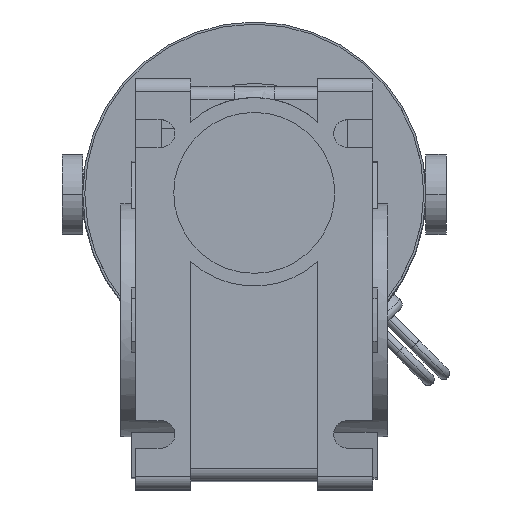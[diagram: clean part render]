
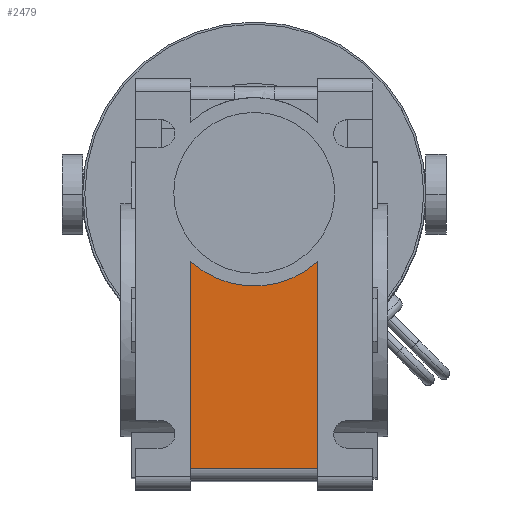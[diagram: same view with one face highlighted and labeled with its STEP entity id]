
A CAD part, top view. The second image highlights one B-rep face of the part: STEP entity #2479.
In plain terms, the highlighted planar face has unit normal (0, 0, 1).
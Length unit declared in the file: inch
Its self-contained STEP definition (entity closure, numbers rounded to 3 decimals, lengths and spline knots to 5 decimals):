
#2472 = VERTEX_POINT ( 'NONE', #9418 ) ;
#2476 = VERTEX_POINT ( 'NONE', #9412 ) ;
#2478 = EDGE_CURVE ( 'NONE', #2472, #2476, #9411, .T. ) ;
#2479 = ADVANCED_FACE ( 'NONE', ( #9407 ), #9406, .F. ) ;
#2480 = EDGE_LOOP ( 'NONE', ( #2481, #2538, #2539, #2543 ) ) ;
#2481 = ORIENTED_EDGE ( 'NONE', *, *, #2482, .T. ) ;
#2482 = EDGE_CURVE ( 'NONE', #2483, #2472, #9401, .T. ) ;
#2483 = VERTEX_POINT ( 'NONE', #9396 ) ;
#2538 = ORIENTED_EDGE ( 'NONE', *, *, #2478, .T. ) ;
#2539 = ORIENTED_EDGE ( 'NONE', *, *, #2540, .T. ) ;
#2540 = EDGE_CURVE ( 'NONE', #2476, #2541, #9495, .T. ) ;
#2541 = VERTEX_POINT ( 'NONE', #9491 ) ;
#2543 = ORIENTED_EDGE ( 'NONE', *, *, #2544, .T. ) ;
#2544 = EDGE_CURVE ( 'NONE', #2541, #2483, #9490, .T. ) ;
#9396 = CARTESIAN_POINT ( 'NONE',  ( -0.59055, -0.63715, 3.94142 ) ) ;
#9397 = DIRECTION ( 'NONE',  ( 0., -1., 0. ) ) ;
#9398 = VECTOR ( 'NONE', #9397, 39.37008 ) ;
#9400 = CARTESIAN_POINT ( 'NONE',  ( -0.59055, -2.67717, 3.94142 ) ) ;
#9401 = LINE ( 'NONE', #9400, #9398 ) ;
#9402 = DIRECTION ( 'NONE',  ( 0., -1., 0. ) ) ;
#9403 = DIRECTION ( 'NONE',  ( 0., 0., -1. ) ) ;
#9404 = AXIS2_PLACEMENT_3D ( 'NONE', #9405, #9403, #9402 ) ;
#9405 = CARTESIAN_POINT ( 'NONE',  ( 0., 0.00984, 3.94142 ) ) ;
#9406 = PLANE ( 'NONE',  #9404 ) ;
#9407 = FACE_OUTER_BOUND ( 'NONE', #2480, .T. ) ;
#9408 = DIRECTION ( 'NONE',  ( 1., 0., 0. ) ) ;
#9409 = VECTOR ( 'NONE', #9408, 39.37008 ) ;
#9410 = CARTESIAN_POINT ( 'NONE',  ( 0., -2.55906, 3.94142 ) ) ;
#9411 = LINE ( 'NONE', #9410, #9409 ) ;
#9412 = CARTESIAN_POINT ( 'NONE',  ( 0.59055, -2.55906, 3.94142 ) ) ;
#9418 = CARTESIAN_POINT ( 'NONE',  ( -0.59055, -2.55906, 3.94142 ) ) ;
#9486 = DIRECTION ( 'NONE',  ( 1., 0., 0. ) ) ;
#9487 = DIRECTION ( 'NONE',  ( 0., 0., -1. ) ) ;
#9488 = CARTESIAN_POINT ( 'NONE',  ( 0., 0.00984, 3.94142 ) ) ;
#9489 = AXIS2_PLACEMENT_3D ( 'NONE', #9488, #9487, #9486 ) ;
#9490 = CIRCLE ( 'NONE', #9489, 0.87598 ) ;
#9491 = CARTESIAN_POINT ( 'NONE',  ( 0.59055, -0.63715, 3.94142 ) ) ;
#9492 = DIRECTION ( 'NONE',  ( 0., 1., 0. ) ) ;
#9493 = VECTOR ( 'NONE', #9492, 39.37008 ) ;
#9494 = CARTESIAN_POINT ( 'NONE',  ( 0.59055, -2.67717, 3.94142 ) ) ;
#9495 = LINE ( 'NONE', #9494, #9493 ) ;
